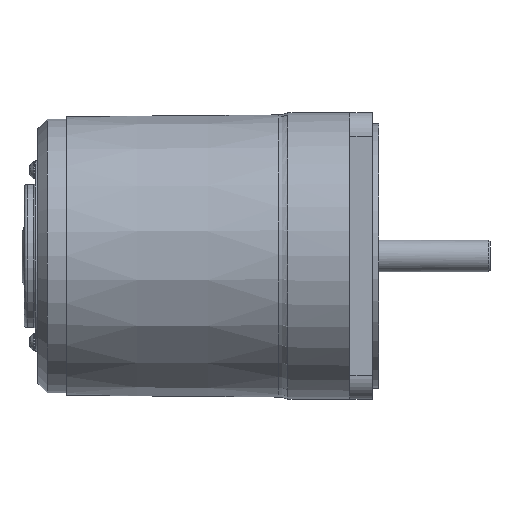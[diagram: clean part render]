
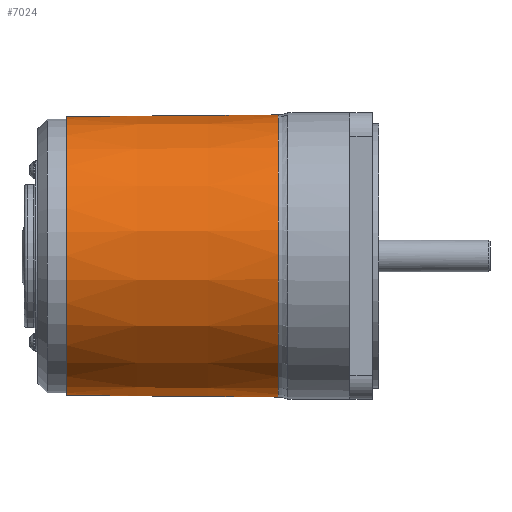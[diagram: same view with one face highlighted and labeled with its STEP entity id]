
A CAD part, top view. The second image highlights one B-rep face of the part: STEP entity #7024.
In plain terms, the highlighted conical face has half-angle 0.48 degrees and reference radius 44.029 mm.
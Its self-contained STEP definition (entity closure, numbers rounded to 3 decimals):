
#14=CONICAL_SURFACE('',#7516,44.029,0.48);
#88=FACE_BOUND('',#944,.T.);
#500=FACE_OUTER_BOUND('',#943,.T.);
#943=EDGE_LOOP('',(#4872,#4873,#4874,#4875,#4876,#4877));
#944=EDGE_LOOP('',(#4878));
#1374=B_SPLINE_CURVE_WITH_KNOTS('',3,(#11426,#11427,#11428,#11429),
 .UNSPECIFIED.,.F.,.F.,(4,4),(3.648,3.698),
 .UNSPECIFIED.);
#1375=B_SPLINE_CURVE_WITH_KNOTS('',3,(#11430,#11431,#11432,#11433),
 .UNSPECIFIED.,.F.,.F.,(4,4),(-6.954,-3.698),
 .UNSPECIFIED.);
#1376=B_SPLINE_CURVE_WITH_KNOTS('',3,(#11435,#11436,#11437,#11438),
 .UNSPECIFIED.,.F.,.F.,(4,4),(-3.256,0.),.UNSPECIFIED.);
#1377=B_SPLINE_CURVE_WITH_KNOTS('',3,(#11440,#11441,#11442,#11443),
 .UNSPECIFIED.,.F.,.F.,(4,4),(3.256,3.306),
 .UNSPECIFIED.);
#1510=CIRCLE('',#7499,43.75);
#1520=CIRCLE('',#7515,44.308);
#1521=CIRCLE('',#7517,44.031);
#2907=VERTEX_POINT('',#11302);
#2918=VERTEX_POINT('',#11363);
#2930=VERTEX_POINT('',#11416);
#2931=VERTEX_POINT('',#11424);
#2932=VERTEX_POINT('',#11425);
#2933=VERTEX_POINT('',#11434);
#2934=VERTEX_POINT('',#11439);
#3635=EDGE_CURVE('',#2907,#2907,#1510,.T.);
#3661=EDGE_CURVE('',#2918,#2930,#1520,.T.);
#3662=EDGE_CURVE('',#2931,#2932,#1374,.T.);
#3663=EDGE_CURVE('',#2930,#2932,#1375,.T.);
#3664=EDGE_CURVE('',#2933,#2918,#1376,.T.);
#3665=EDGE_CURVE('',#2933,#2934,#1377,.T.);
#3666=EDGE_CURVE('',#2931,#2934,#1521,.T.);
#4872=ORIENTED_EDGE('',*,*,#3662,.T.);
#4873=ORIENTED_EDGE('',*,*,#3663,.F.);
#4874=ORIENTED_EDGE('',*,*,#3661,.F.);
#4875=ORIENTED_EDGE('',*,*,#3664,.F.);
#4876=ORIENTED_EDGE('',*,*,#3665,.T.);
#4877=ORIENTED_EDGE('',*,*,#3666,.F.);
#4878=ORIENTED_EDGE('',*,*,#3635,.T.);
#7024=ADVANCED_FACE('',(#500,#88),#14,.T.);
#7499=AXIS2_PLACEMENT_3D('',#11303,#8447,#8448);
#7515=AXIS2_PLACEMENT_3D('',#11422,#8486,#8487);
#7516=AXIS2_PLACEMENT_3D('',#11423,#8488,#8489);
#7517=AXIS2_PLACEMENT_3D('',#11444,#8490,#8491);
#8447=DIRECTION('center_axis',(1.,0.,0.));
#8448=DIRECTION('ref_axis',(0.,1.,0.));
#8486=DIRECTION('center_axis',(1.,0.,0.));
#8487=DIRECTION('ref_axis',(0.,1.,0.));
#8488=DIRECTION('center_axis',(1.,0.,0.));
#8489=DIRECTION('ref_axis',(0.,1.,0.));
#8490=DIRECTION('center_axis',(1.,0.,0.));
#8491=DIRECTION('ref_axis',(0.,0.,-1.));
#11302=CARTESIAN_POINT('',(9.,43.75,0.));
#11303=CARTESIAN_POINT('Origin',(9.,0.,
0.));
#11363=CARTESIAN_POINT('',(75.559,29.222,-33.306));
#11416=CARTESIAN_POINT('',(75.559,-29.222,-33.306));
#11422=CARTESIAN_POINT('Origin',(75.559,0.,
0.));
#11423=CARTESIAN_POINT('Origin',(42.279,0.,
0.));
#11424=CARTESIAN_POINT('',(42.504,-29.21,-32.947));
#11425=CARTESIAN_POINT('',(43.,-29.21,-32.952));
#11426=CARTESIAN_POINT('Ctrl Pts',(42.504,-29.21,-32.947));
#11427=CARTESIAN_POINT('Ctrl Pts',(42.669,-29.21,-32.949));
#11428=CARTESIAN_POINT('Ctrl Pts',(42.835,-29.21,-32.95));
#11429=CARTESIAN_POINT('Ctrl Pts',(43.,-29.21,-32.952));
#11430=CARTESIAN_POINT('Ctrl Pts',(75.559,-29.222,-33.306));
#11431=CARTESIAN_POINT('Ctrl Pts',(64.706,-29.218,-33.188));
#11432=CARTESIAN_POINT('Ctrl Pts',(53.853,-29.214,-33.07));
#11433=CARTESIAN_POINT('Ctrl Pts',(43.,-29.21,-32.952));
#11434=CARTESIAN_POINT('',(43.,29.21,-32.952));
#11435=CARTESIAN_POINT('Ctrl Pts',(43.,29.21,-32.952));
#11436=CARTESIAN_POINT('Ctrl Pts',(53.853,29.214,-33.07));
#11437=CARTESIAN_POINT('Ctrl Pts',(64.706,29.218,-33.188));
#11438=CARTESIAN_POINT('Ctrl Pts',(75.559,29.222,-33.306));
#11439=CARTESIAN_POINT('',(42.504,29.21,-32.947));
#11440=CARTESIAN_POINT('Ctrl Pts',(43.,29.21,-32.952));
#11441=CARTESIAN_POINT('Ctrl Pts',(42.835,29.21,-32.95));
#11442=CARTESIAN_POINT('Ctrl Pts',(42.669,29.21,-32.949));
#11443=CARTESIAN_POINT('Ctrl Pts',(42.504,29.21,-32.947));
#11444=CARTESIAN_POINT('Origin',(42.504,0.,
0.));
